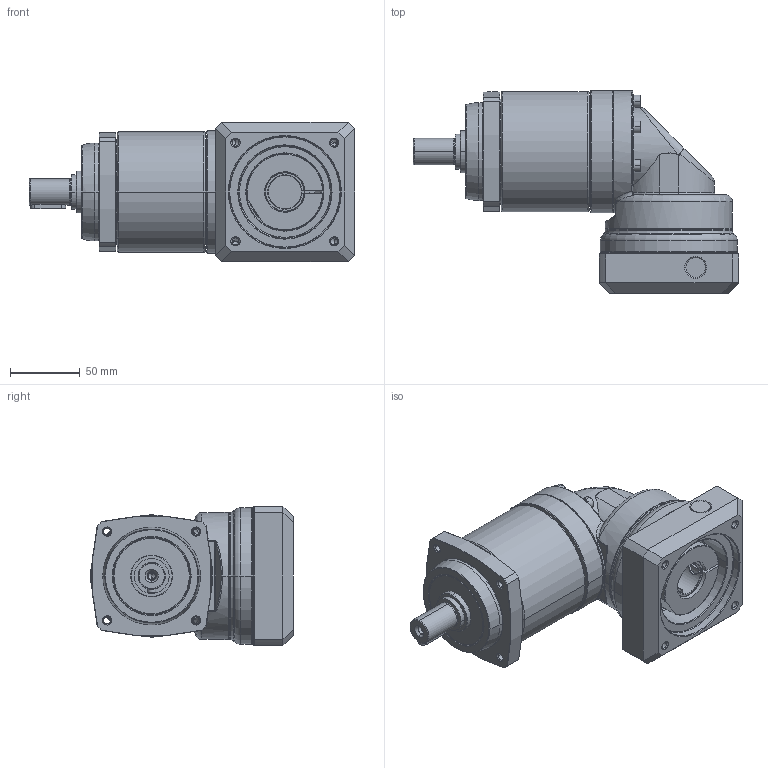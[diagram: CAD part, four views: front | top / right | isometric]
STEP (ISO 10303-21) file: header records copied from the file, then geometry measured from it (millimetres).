
FILE_DESCRIPTION((''),'2;1');
FILE_NAME('PS2R-C_2ST_24-P0411500101_ASM','2016-06-01T',('d01943'),(''),'PRO/ENGINEER BY PARAMETRIC TECHNOLOGY CORPORATION, 2008410','PRO/ENGINEER BY PARAMETRIC TECHNOLOGY CORPORATION, 2008410','');
FILE_SCHEMA(('CONFIG_CONTROL_DESIGN'));
Length unit declared in the file: millimetre
Products named in the file (12): P1328310001; P0251300001; P0350301401; P1349300001; P1017300001; P0713302001; P0503500008; P1350300201; P0411500101; P1702500001; 2111BA05025; PS2R-C_2ST_24-P0411500101_ASM
Assembly tree (16 placements, depth 2):
  PS2R-C_2ST_24-P0411500101_ASM
    P1328310001
    P0251300001
    P0350301401
    P1349300001
    P1017300001
    P0713302001
    P0503500008
    P1350300201
    P0411500101
    P1702500001
    2111BA05025  x6
Bounding box: 233 x 145.25 x 100 mm (x, y, z)
Volume: 872664.5 mm3; surface area: 219045.8 mm2
Topology: 16 solids, 16 shells, 802 faces, 1761 edges, 1020 vertices
Faces by surface type: cylinder 250, cone 232, plane 190, torus 96, bspline 34
Entity records: 23530 total; most frequent: CARTESIAN_POINT 9192, DIRECTION 3186, ORIENTED_EDGE 2770, EDGE_CURVE 1385, AXIS2_PLACEMENT_3D 1350, VERTEX_POINT 820, EDGE_LOOP 725, CIRCLE 719
